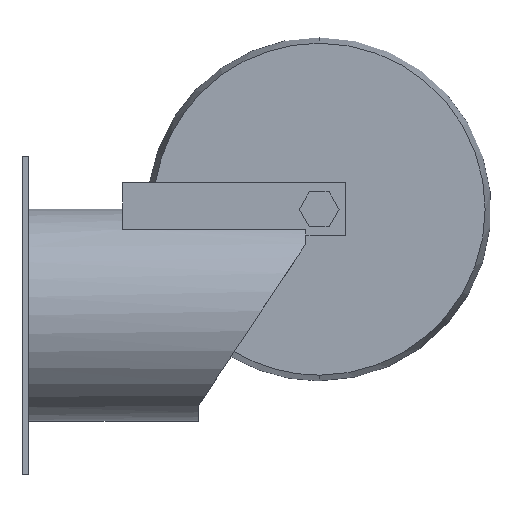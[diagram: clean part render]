
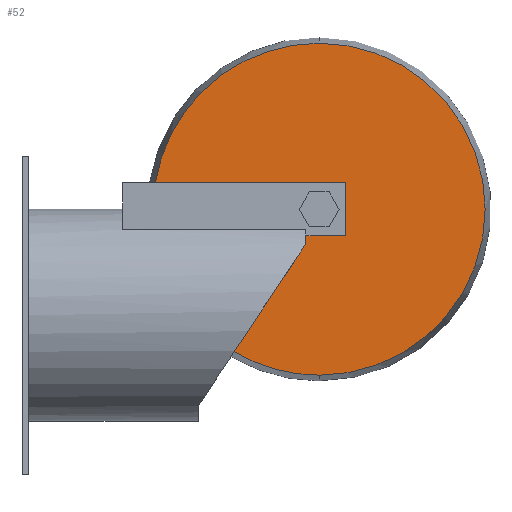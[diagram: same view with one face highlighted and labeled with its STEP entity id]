
A CAD part, left-side view. The second image highlights one B-rep face of the part: STEP entity #52.
In plain terms, the highlighted planar face has unit normal (-1, 0, 0).
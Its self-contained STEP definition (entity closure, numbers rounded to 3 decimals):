
#29 = LINE ( 'NONE', #568, #673 ) ;
#38 = DIRECTION ( 'NONE',  ( 0., 0.553, -0.833 ) ) ;
#52 = ADVANCED_FACE ( 'NONE', ( #106 ), #975, .F. ) ;
#56 = LINE ( 'NONE', #602, #653 ) ;
#57 = AXIS2_PLACEMENT_3D ( 'NONE', #1183, #407, #1189 ) ;
#95 = LINE ( 'NONE', #409, #830 ) ;
#106 = FACE_OUTER_BOUND ( 'NONE', #457, .T. ) ;
#112 = CARTESIAN_POINT ( 'NONE',  ( -19., -112., 30. ) ) ;
#115 = VERTEX_POINT ( 'NONE', #1287 ) ;
#133 = ORIENTED_EDGE ( 'NONE', *, *, #1203, .T. ) ;
#134 = DIRECTION ( 'NONE',  ( 0., 0., 1. ) ) ;
#168 = VECTOR ( 'NONE', #1018, 1000. ) ;
#175 = EDGE_CURVE ( 'NONE', #1351, #115, #765, .T. ) ;
#198 = DIRECTION ( 'NONE',  ( 1., 0., 0. ) ) ;
#228 = VERTEX_POINT ( 'NONE', #451 ) ;
#230 = EDGE_CURVE ( 'NONE', #870, #228, #29, .T. ) ;
#261 = CIRCLE ( 'NONE', #57, 62.553 ) ;
#305 = VECTOR ( 'NONE', #546, 1000. ) ;
#338 = CARTESIAN_POINT ( 'NONE',  ( -19., -112., 50. ) ) ;
#349 = DIRECTION ( 'NONE',  ( -1., 0., 0. ) ) ;
#407 = DIRECTION ( 'NONE',  ( -1., 0., 0. ) ) ;
#409 = CARTESIAN_POINT ( 'NONE',  ( -19., -122., 40. ) ) ;
#441 = EDGE_CURVE ( 'NONE', #1320, #655, #261, .T. ) ;
#447 = ORIENTED_EDGE ( 'NONE', *, *, #1137, .F. ) ;
#451 = CARTESIAN_POINT ( 'NONE',  ( -19., -79.961, -13.726 ) ) ;
#457 = EDGE_LOOP ( 'NONE', ( #1020, #133, #504, #798, #573, #464, #1061, #447 ) ) ;
#464 = ORIENTED_EDGE ( 'NONE', *, *, #1285, .F. ) ;
#484 = CARTESIAN_POINT ( 'NONE',  ( -19., -112., -22.553 ) ) ;
#504 = ORIENTED_EDGE ( 'NONE', *, *, #631, .T. ) ;
#546 = DIRECTION ( 'NONE',  ( 0., 1., 0. ) ) ;
#554 = CARTESIAN_POINT ( 'NONE',  ( -19., -107., 27. ) ) ;
#563 = AXIS2_PLACEMENT_3D ( 'NONE', #1209, #349, #134 ) ;
#568 = CARTESIAN_POINT ( 'NONE',  ( -19., -66.5, -34. ) ) ;
#573 = ORIENTED_EDGE ( 'NONE', *, *, #868, .F. ) ;
#602 = CARTESIAN_POINT ( 'NONE',  ( -19., -107., 40. ) ) ;
#606 = DIRECTION ( 'NONE',  ( 0., 0., 1. ) ) ;
#631 = EDGE_CURVE ( 'NONE', #1025, #1320, #1151, .T. ) ;
#653 = VECTOR ( 'NONE', #606, 1000. ) ;
#655 = VERTEX_POINT ( 'NONE', #896 ) ;
#673 = VECTOR ( 'NONE', #38, 1000. ) ;
#752 = DIRECTION ( 'NONE',  ( 0., 0., 1. ) ) ;
#765 = LINE ( 'NONE', #112, #168 ) ;
#797 = CARTESIAN_POINT ( 'NONE',  ( -19., -107., 30. ) ) ;
#798 = ORIENTED_EDGE ( 'NONE', *, *, #441, .T. ) ;
#830 = VECTOR ( 'NONE', #961, 1000. ) ;
#838 = DIRECTION ( 'NONE',  ( 0., 0., -1. ) ) ;
#868 = EDGE_CURVE ( 'NONE', #1158, #655, #1192, .T. ) ;
#870 = VERTEX_POINT ( 'NONE', #554 ) ;
#896 = CARTESIAN_POINT ( 'NONE',  ( -19., -50.251, 50. ) ) ;
#961 = DIRECTION ( 'NONE',  ( 0., 0., 1. ) ) ;
#975 = PLANE ( 'NONE',  #1362 ) ;
#1018 = DIRECTION ( 'NONE',  ( 0., -1., 0. ) ) ;
#1020 = ORIENTED_EDGE ( 'NONE', *, *, #230, .T. ) ;
#1025 = VERTEX_POINT ( 'NONE', #484 ) ;
#1041 = CIRCLE ( 'NONE', #1343, 62.553 ) ;
#1061 = ORIENTED_EDGE ( 'NONE', *, *, #175, .F. ) ;
#1085 = CARTESIAN_POINT ( 'NONE',  ( -19., -112., 102.553 ) ) ;
#1137 = EDGE_CURVE ( 'NONE', #870, #1351, #56, .T. ) ;
#1151 = CIRCLE ( 'NONE', #563, 62.553 ) ;
#1158 = VERTEX_POINT ( 'NONE', #1365 ) ;
#1168 = DIRECTION ( 'NONE',  ( -1., 0., 0. ) ) ;
#1183 = CARTESIAN_POINT ( 'NONE',  ( -19., -112., 40. ) ) ;
#1189 = DIRECTION ( 'NONE',  ( 0., 0., 1. ) ) ;
#1192 = LINE ( 'NONE', #338, #305 ) ;
#1203 = EDGE_CURVE ( 'NONE', #228, #1025, #1041, .T. ) ;
#1209 = CARTESIAN_POINT ( 'NONE',  ( -19., -112., 40. ) ) ;
#1285 = EDGE_CURVE ( 'NONE', #115, #1158, #95, .T. ) ;
#1287 = CARTESIAN_POINT ( 'NONE',  ( -19., -122., 30. ) ) ;
#1320 = VERTEX_POINT ( 'NONE', #1085 ) ;
#1343 = AXIS2_PLACEMENT_3D ( 'NONE', #1409, #1168, #752 ) ;
#1351 = VERTEX_POINT ( 'NONE', #797 ) ;
#1362 = AXIS2_PLACEMENT_3D ( 'NONE', #1408, #198, #838 ) ;
#1365 = CARTESIAN_POINT ( 'NONE',  ( -19., -122., 50. ) ) ;
#1408 = CARTESIAN_POINT ( 'NONE',  ( -19., -112., 40. ) ) ;
#1409 = CARTESIAN_POINT ( 'NONE',  ( -19., -112., 40. ) ) ;
